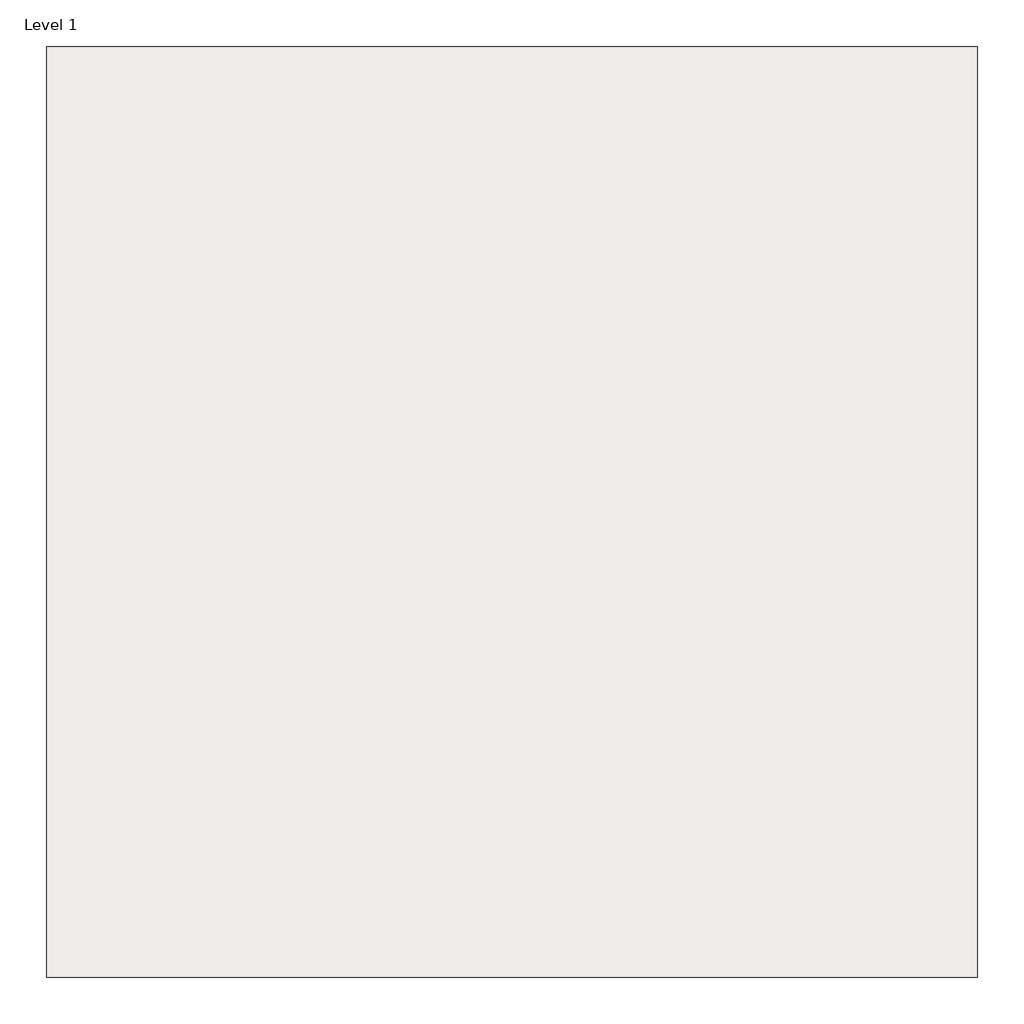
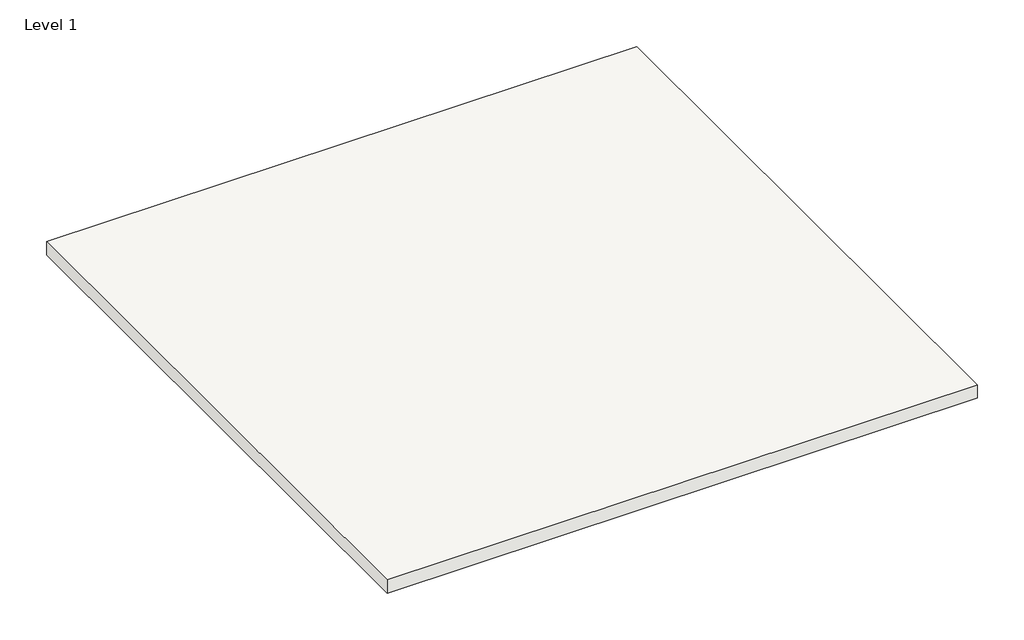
# One storey: 1 slab.
"""IFC4 building model written with IfcOpenShell, lengths in millimetres."""

from ifc_helpers import new_model, si_unit, frame, origin, place, context, project, spatial, polyline, outline, extrude, element, save

model = new_model("IFC4")

# Units and contexts
model_context = context("Model", 3, world=origin())
ifc_project = project(units=[si_unit("LENGTHUNIT", "METRE", prefix="MILLI")], contexts=[model_context])

# Site, building, storey
site = spatial("IfcSite", under=ifc_project)
building = spatial("IfcBuilding", under=site)
storey = spatial("IfcBuildingStorey", under=building, Name="Level 1", Elevation=4000.0)

# Slab
placement = place(None, origin())
element("IfcSlab", 1, ObjectType="NBS_IKOPLC_ReinforcedBitumenMembraneInvertedRoofCoveringSystems_IKOPermatecEcowrap", at=placement, inside=storey, context=model_context, shape_type="SweptSolid", body=[
    extrude(outline(polyline([(0.0, -4000.0), (2500.0, -4000.0), (2500.0, -6500.0), (0.0, -6500.0), (0.0, -4000.0)])), frame((0.0, 0.0, 4000.0), z_axis=(0.0, 0.0, 1.0), x_axis=(1.0, 0.0, 0.0)), (0.0, 0.0, 1.0), 58.8),
])

save(model, "model.ifc")
